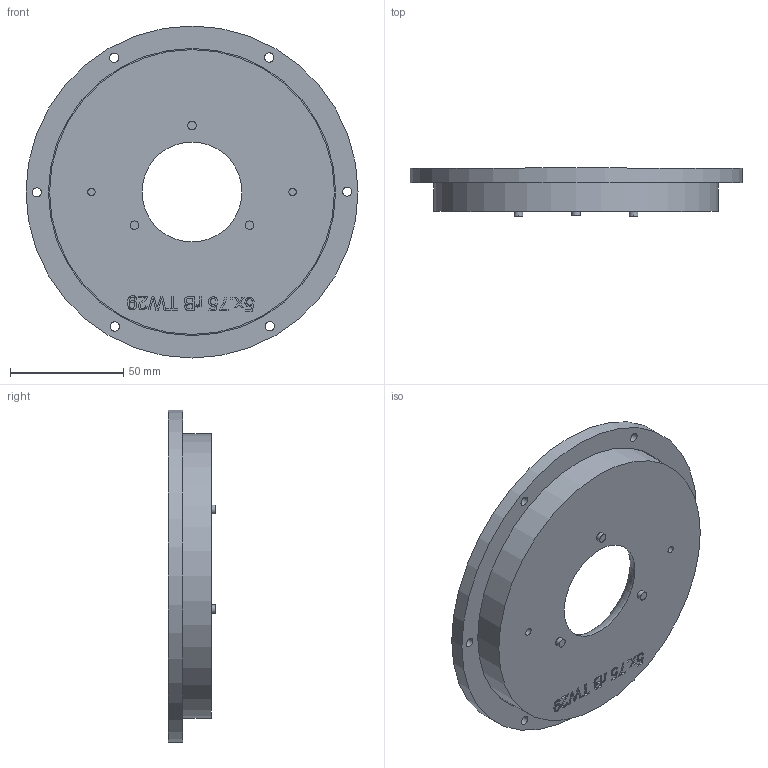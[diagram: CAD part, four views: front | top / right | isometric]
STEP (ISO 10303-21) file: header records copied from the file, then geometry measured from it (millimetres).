
FILE_DESCRIPTION(/* description */ (''),/* implementation_level */ '2;1');
FILE_NAME(/* name */ '5x.75 rB nops.step',/* time_stamp */ '2023-05-21T16:37:06-06:00',/* author */ (''),/* organization */ (''),/* preprocessor_version */ 'ST-DEVELOPER v19.2',/* originating_system */ 'Autodesk Translation Framework v12.4.0.73',/* authorisation */ '');
FILE_SCHEMA (('AUTOMOTIVE_DESIGN { 1 0 10303 214 3 1 1 }'));
Length unit declared in the file: inch
Products named in the file (1): 5x.75 rB OS TW29
Bounding box: 146.81 x 21.08 x 146.81 mm (x, y, z)
Volume: 188815.8 mm3; surface area: 41926.3 mm2
Topology: 1 solids, 1 shells, 250 faces, 666 edges, 444 vertices
Faces by surface type: bspline 124, plane 105, cylinder 20, torus 1
Full cylindrical faces by diameter (mm): 3.302 x2, 3.81 x3, 4.064 x6, 8.382 x6, 125.984 x1, 127 x1, 146.812 x1
Entity records: 8975 total; most frequent: CARTESIAN_POINT 3487, ORIENTED_EDGE 1332, DIRECTION 725, EDGE_CURVE 666, VERTEX_POINT 444, LINE 373, VECTOR 373, EDGE_LOOP 290
